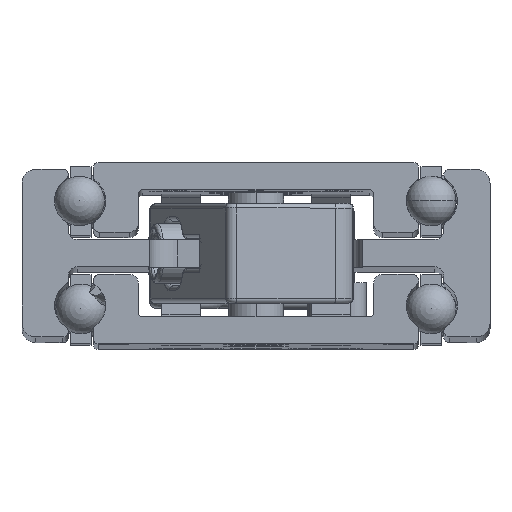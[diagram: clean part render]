
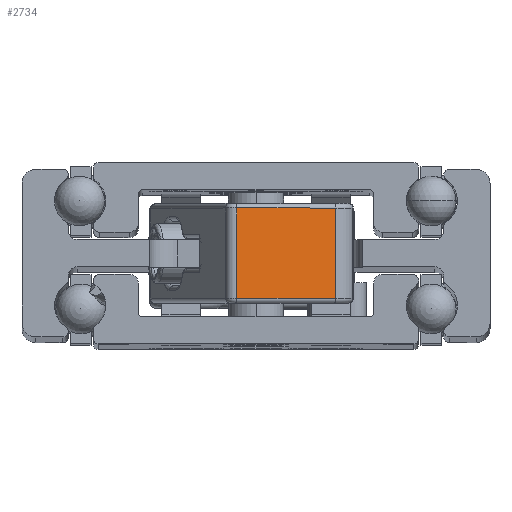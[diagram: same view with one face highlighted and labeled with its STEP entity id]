
A CAD part, top view. The second image highlights one B-rep face of the part: STEP entity #2734.
In plain terms, the highlighted planar face has unit normal (0.225, 0, 0.974) as drawn and (-1, 0, 0) by its records, which use the part's own axes.
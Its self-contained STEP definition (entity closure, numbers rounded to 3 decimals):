
#50 = DIRECTION ( 'NONE',  ( 0., 0., -1. ) ) ;
#1135 = VECTOR ( 'NONE', #10771, 1000. ) ;
#1630 = DIRECTION ( 'NONE',  ( 0., 0., -1. ) ) ;
#2207 = EDGE_CURVE ( 'NONE', #14489, #17836, #18623, .T. ) ;
#2448 = LINE ( 'NONE', #23459, #1135 ) ;
#2678 = ORIENTED_EDGE ( 'NONE', *, *, #17427, .T. ) ;
#2734 = ADVANCED_FACE ( 'NONE', ( #12136 ), #20466, .F. ) ;
#3042 = VECTOR ( 'NONE', #50, 1000. ) ;
#3300 = ORIENTED_EDGE ( 'NONE', *, *, #2207, .T. ) ;
#3570 = LINE ( 'NONE', #11900, #5474 ) ;
#3693 = VERTEX_POINT ( 'NONE', #4125 ) ;
#3744 = CARTESIAN_POINT ( 'NONE',  ( -37., 8., 5.4 ) ) ;
#4125 = CARTESIAN_POINT ( 'NONE',  ( -37., -3., 4.9 ) ) ;
#5474 = VECTOR ( 'NONE', #15727, 1000. ) ;
#6447 = AXIS2_PLACEMENT_3D ( 'NONE', #22371, #7774, #1630 ) ;
#7774 = DIRECTION ( 'NONE',  ( 1., 0., 0. ) ) ;
#8114 = LINE ( 'NONE', #8243, #10034 ) ;
#8243 = CARTESIAN_POINT ( 'NONE',  ( -37., -3., 5.4 ) ) ;
#9126 = CARTESIAN_POINT ( 'NONE',  ( -37., -3., -4.9 ) ) ;
#10034 = VECTOR ( 'NONE', #16557, 1000. ) ;
#10771 = DIRECTION ( 'NONE',  ( 0., 1., 0. ) ) ;
#11900 = CARTESIAN_POINT ( 'NONE',  ( -37., -4., -4.9 ) ) ;
#12136 = FACE_OUTER_BOUND ( 'NONE', #20623, .T. ) ;
#14489 = VERTEX_POINT ( 'NONE', #16617 ) ;
#15727 = DIRECTION ( 'NONE',  ( 0., -1., 0. ) ) ;
#16557 = DIRECTION ( 'NONE',  ( 0., 0., 1. ) ) ;
#16617 = CARTESIAN_POINT ( 'NONE',  ( -37., 8., 4.9 ) ) ;
#16785 = EDGE_CURVE ( 'NONE', #17836, #19650, #3570, .T. ) ;
#17427 = EDGE_CURVE ( 'NONE', #3693, #14489, #2448, .T. ) ;
#17836 = VERTEX_POINT ( 'NONE', #23553 ) ;
#18623 = LINE ( 'NONE', #3744, #3042 ) ;
#19650 = VERTEX_POINT ( 'NONE', #9126 ) ;
#20243 = ORIENTED_EDGE ( 'NONE', *, *, #26338, .T. ) ;
#20466 = PLANE ( 'NONE',  #6447 ) ;
#20623 = EDGE_LOOP ( 'NONE', ( #20243, #2678, #3300, #21271 ) ) ;
#21271 = ORIENTED_EDGE ( 'NONE', *, *, #16785, .T. ) ;
#22371 = CARTESIAN_POINT ( 'NONE',  ( -37., -4., 5.4 ) ) ;
#23459 = CARTESIAN_POINT ( 'NONE',  ( -37., 8., 4.9 ) ) ;
#23553 = CARTESIAN_POINT ( 'NONE',  ( -37., 8., -4.9 ) ) ;
#26338 = EDGE_CURVE ( 'NONE', #19650, #3693, #8114, .T. ) ;
